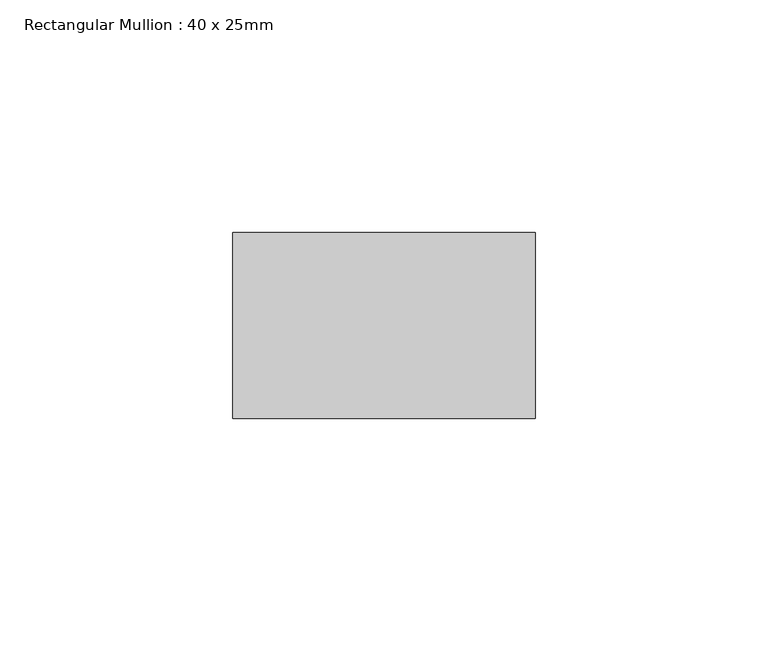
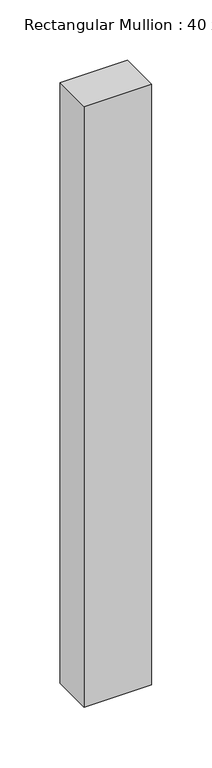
"""IFC4 building model written with IfcOpenShell, lengths in millimetres: member geometry, Rectangular Mullion : 40 x 25mm."""

from ifc_helpers import new_model, si_unit, frame, origin, place, context, project, spatial, polyline, outline, extrude, source, transform, mapped, element, save


def rectangular_mullion_40_x_25mm_4416b4b7(model_context):
    return source(origin(), model_context, "Body", "SweptSolid", [
        extrude(outline(polyline([(40.0, -20.0), (40.0, -60.0), (-25.0, -60.0), (-25.0, -20.0), (40.0, -20.0)])), frame((0.0, 0.0, -610.0), z_axis=(0.0, 0.0, 1.0), x_axis=(1.0, 0.0, 0.0)), (0.0, 0.0, 1.0), 610.0),
    ])


if __name__ == "__main__":
    model = new_model("IFC4")
    model_context = context("Model", 3, world=origin())
    ifc_project = project(units=[si_unit("LENGTHUNIT", "METRE", prefix="MILLI")], contexts=[model_context])
    site = spatial("IfcSite", under=ifc_project)
    building = spatial("IfcBuilding", under=site)
    placement = place(None, origin())
    rectangular_mullion_40_x_25mm_shape = rectangular_mullion_40_x_25mm_4416b4b7(model_context)
    element("IfcMember", 1, ObjectType="Rectangular Mullion : 40 x 25mm", at=placement, inside=building, context=model_context, shape_type="MappedRepresentation", body=[
        mapped(rectangular_mullion_40_x_25mm_shape, transform((0.0, 0.0, 0.0), x_axis=(1.0, 0.0, 0.0), y_axis=(0.0, 1.0, 0.0), z_axis=(0.0, 0.0, 1.0))),
    ])
    save(model, "model.ifc")
